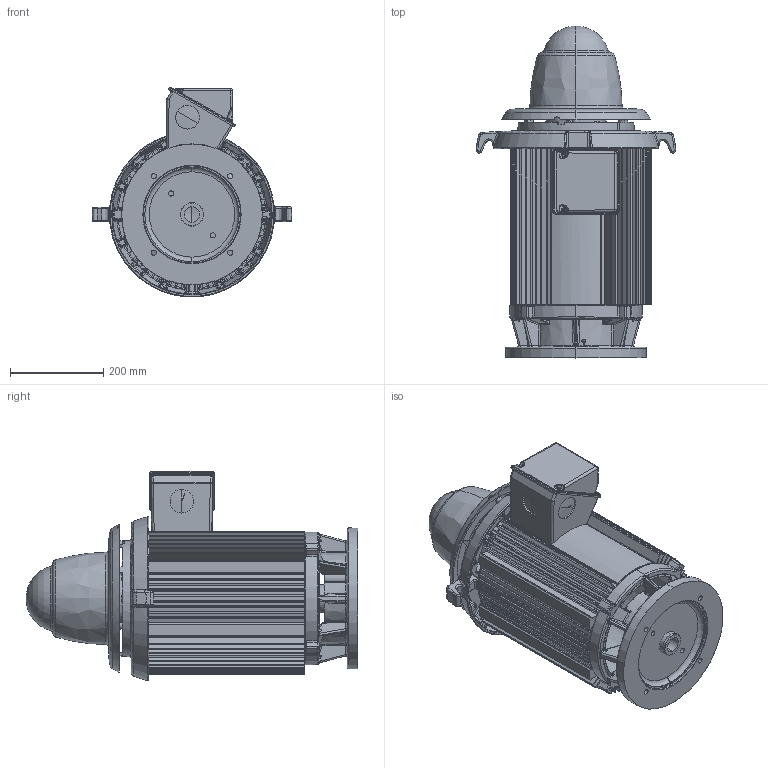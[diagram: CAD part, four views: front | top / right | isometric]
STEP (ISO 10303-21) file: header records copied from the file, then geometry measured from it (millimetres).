
FILE_DESCRIPTION((''),'2;1');
FILE_NAME('280AU_ASSY_ASM','2016-03-31T',('emd2341'),('Nidec Motor Corporation'),'PRO/ENGINEER BY PARAMETRIC TECHNOLOGY CORPORATION, 2013150','PRO/ENGINEER BY PARAMETRIC TECHNOLOGY CORPORATION, 2013150','');
FILE_SCHEMA(('CONFIG_CONTROL_DESIGN'));
Length unit declared in the file: inch
Products named in the file (9): 0380258_AF0; 1001048; 0396184; 0116910; SHAFT; 0396188-CAP; 0364282-OBB; 0364292; 280AU_ASSY_ASM
Assembly tree (8 placements, depth 2):
  280AU_ASSY_ASM
    0380258_AF0
    1001048
    0396184
    0116910
    SHAFT
    0396188-CAP
    0364282-OBB
    0364292
Bounding box: 428.26 x 712.67 x 449.97 mm (x, y, z)
Volume: 7817691.3 mm3; surface area: 2627088 mm2
Topology: 10 solids, 10 shells, 3201 faces, 7730 edges, 4505 vertices
Faces by surface type: bspline 1059, cylinder 791, plane 610, torus 348, cone 273, sphere 118, extrusion 2
Entity records: 139868 total; most frequent: CARTESIAN_POINT 73847, ORIENTED_EDGE 15350, DIRECTION 11766, EDGE_CURVE 7675, AXIS2_PLACEMENT_3D 4930, VERTEX_POINT 4505, EDGE_LOOP 3328, FACE_OUTER_BOUND 3201
